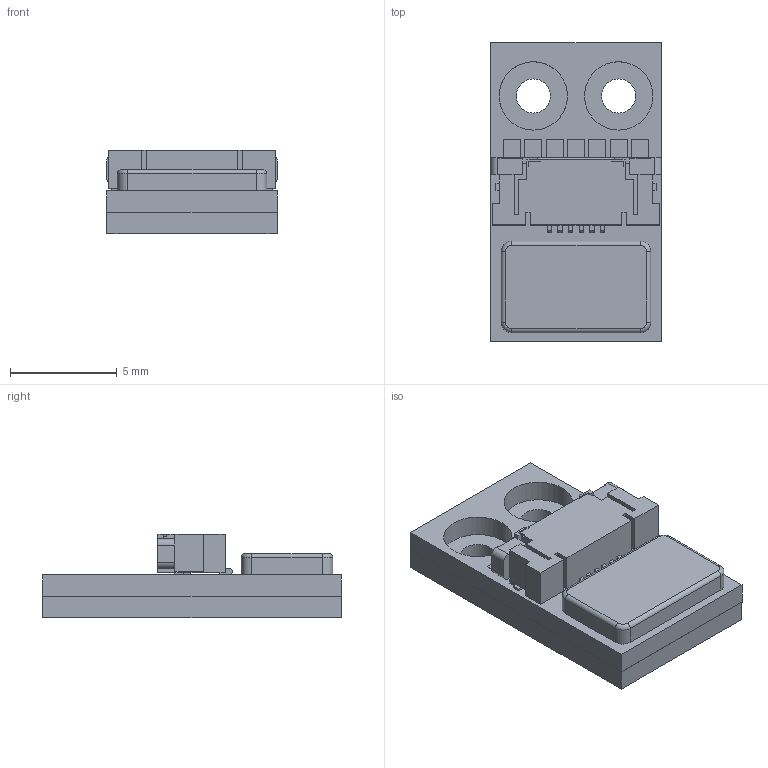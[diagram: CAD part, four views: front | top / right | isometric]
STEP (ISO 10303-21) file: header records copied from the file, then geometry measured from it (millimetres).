
FILE_DESCRIPTION (( 'STEP AP214' ), '1' );
FILE_NAME ('RLB-JST.STEP', '2022-09-07T08:14:26', ( '' ), ( '' ), 'SwSTEP 2.0', 'SolidWorks 2020', '' );
FILE_SCHEMA (( 'AUTOMOTIVE_DESIGN' ));
Length unit declared in the file: millimetre
Products named in the file (3): JST_konektor_6pin_FKZ-SM1-1-TB-1; RLB-3D^RLB-Roll_pitch_yaw_brez_kabla; RLB-JST
Assembly tree (2 placements, depth 2):
  RLB-JST
    RLB-3D^RLB-Roll_pitch_yaw_brez_kabla
    JST_konektor_6pin_FKZ-SM1-1-TB-1
Bounding box: 8 x 14 x 3.9 mm (x, y, z)
Volume: 271 mm3; surface area: 475.7 mm2
Topology: 2 solids, 4 shells, 289 faces, 777 edges, 508 vertices
Faces by surface type: plane 251, cylinder 24, bspline 10, torus 4
Entity records: 11324 total; most frequent: CARTESIAN_POINT 2288, ORIENTED_EDGE 1554, DIRECTION 1367, EDGE_CURVE 777, LINE 695, VECTOR 695, VERTEX_POINT 508, AXIS2_PLACEMENT_3D 336
